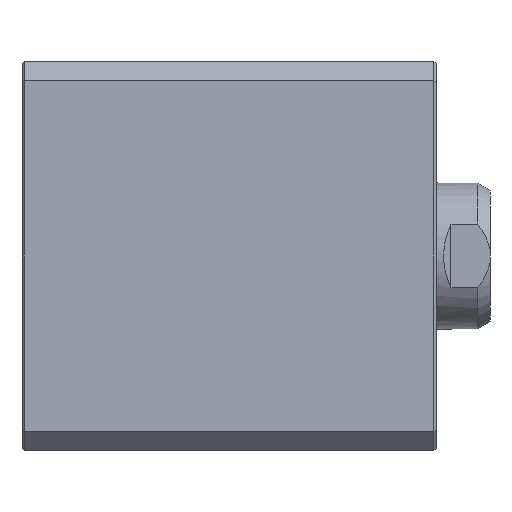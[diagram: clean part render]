
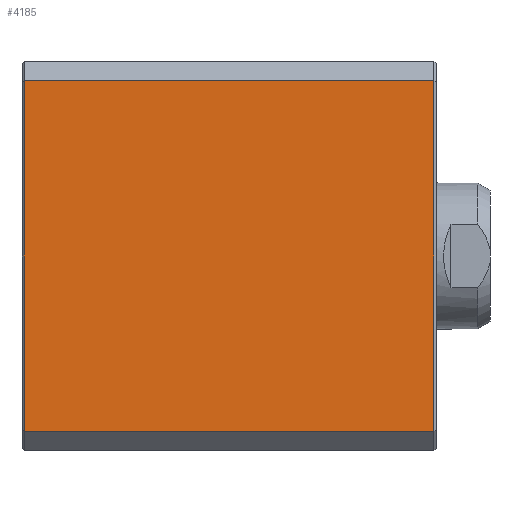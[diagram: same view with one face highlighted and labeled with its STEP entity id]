
A CAD part, left-side view. The second image highlights one B-rep face of the part: STEP entity #4185.
In plain terms, the highlighted planar face has unit normal (-1, 0, 0).
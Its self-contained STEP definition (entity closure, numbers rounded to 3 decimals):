
#231=LINE('',#6054,#525);
#234=LINE('',#6060,#528);
#235=LINE('',#6063,#529);
#236=LINE('',#6064,#530);
#525=VECTOR('',#4948,1000.);
#528=VECTOR('',#4953,1000.);
#529=VECTOR('',#4954,1000.);
#530=VECTOR('',#4955,1000.);
#728=PLANE('',#4418);
#1193=ORIENTED_EDGE('',*,*,#1843,.F.);
#1194=ORIENTED_EDGE('',*,*,#1844,.T.);
#1195=ORIENTED_EDGE('',*,*,#1840,.T.);
#1196=ORIENTED_EDGE('',*,*,#1845,.T.);
#1840=EDGE_CURVE('',#2171,#2172,#231,.T.);
#1843=EDGE_CURVE('',#2173,#2174,#234,.T.);
#1844=EDGE_CURVE('',#2173,#2171,#235,.T.);
#1845=EDGE_CURVE('',#2172,#2174,#236,.T.);
#2171=VERTEX_POINT('',#6055);
#2172=VERTEX_POINT('',#6056);
#2173=VERTEX_POINT('',#6061);
#2174=VERTEX_POINT('',#6062);
#2416=EDGE_LOOP('',(#1193,#1194,#1195,#1196));
#2652=FACE_BOUND('',#2416,.T.);
#4185=ADVANCED_FACE('',(#2652),#728,.T.);
#4418=AXIS2_PLACEMENT_3D('',#6059,#4951,#4952);
#4948=DIRECTION('',(0.,-1.,0.));
#4951=DIRECTION('',(-1.,0.,0.));
#4952=DIRECTION('',(0.,0.,1.));
#4953=DIRECTION('',(0.,-1.,0.));
#4954=DIRECTION('',(0.,0.,-1.));
#4955=DIRECTION('',(0.,0.,1.));
#6054=CARTESIAN_POINT('',(-40.,85.,-36.));
#6055=CARTESIAN_POINT('',(-40.,84.5,-36.));
#6056=CARTESIAN_POINT('',(-40.,0.5,-36.));
#6059=CARTESIAN_POINT('',(-40.,85.,36.));
#6060=CARTESIAN_POINT('',(-40.,85.,36.));
#6061=CARTESIAN_POINT('',(-40.,84.5,36.));
#6062=CARTESIAN_POINT('',(-40.,0.5,36.));
#6063=CARTESIAN_POINT('',(-40.,84.5,-36.));
#6064=CARTESIAN_POINT('',(-40.,0.5,36.));
